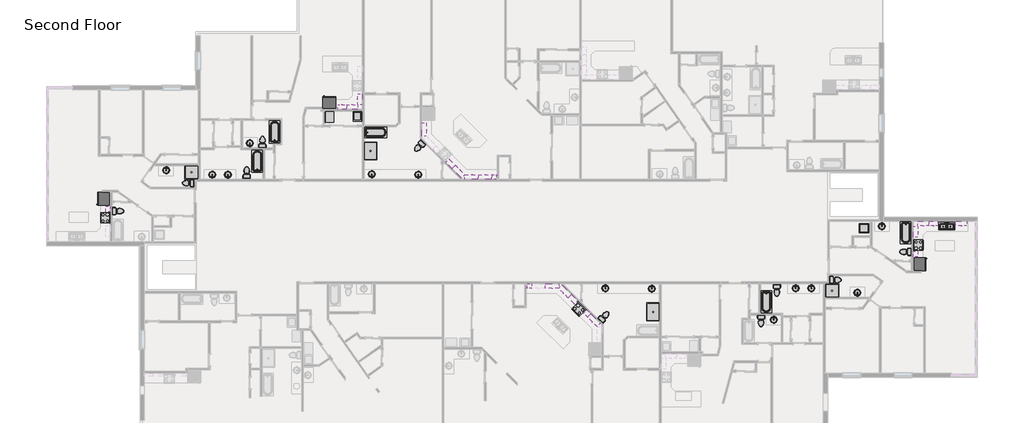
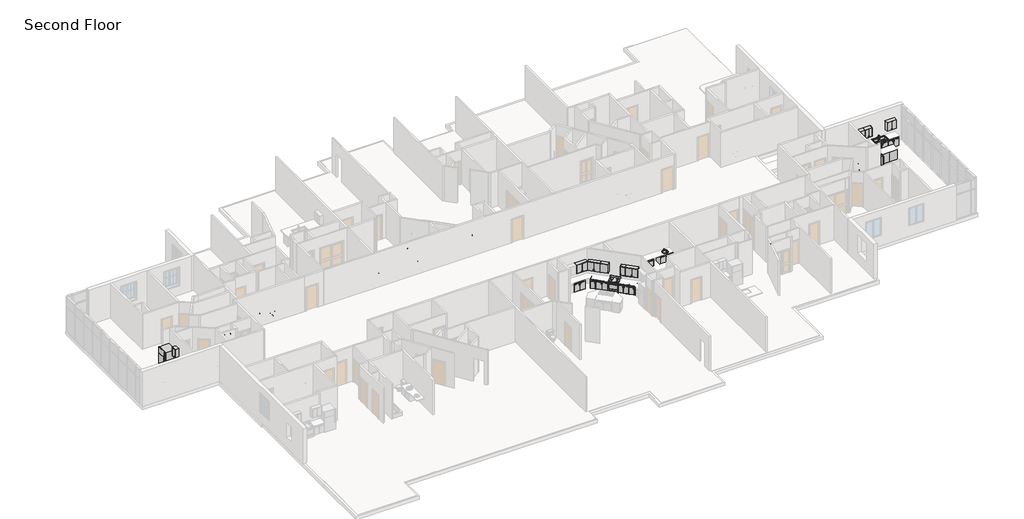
# One storey, part 15 of 17: 66 furniture elements, 33 flow terminals, 9 proxies.
"""IFC4 building model written with IfcOpenShell, lengths in millimetres."""

from ifc_helpers import new_model, si_unit, origin, place, context, project, spatial, transform, mapped, element, save
from components import proxy_6b4a07a9, proxy_fbb4c072, proxy_9109806d, proxy_718fa39f, proxy_f3e01b1d, flow_terminal_54cced83, flow_terminal_5dba0d75, flow_terminal_a53be723, flow_terminal_d49f872f, toilet_domestic_3d_toilet_domestic_3d_f7549cf7, toilet_domestic_3d_toilet_domestic_3d_183bbd19, toilet_domestic_3d_toilet_domestic_3d_a08e12bc, toilet_domestic_3d_toilet_domestic_3d_5530cc89, tub_rectangular_3d_tub_rectangular_3d_72a4d900, tub_rectangular_3d_tub_rectangular_3d_cbc2c449, furniture_0fc2bd2a, furniture_6e8794dd, furniture_07bc9410, furniture_94ff1b7c, furniture_6a014568, furniture_338da5bd, furniture_7de88fd5, furniture_695a55eb, furniture_b6fbc004, furniture_bfd559e3, base_cabinet_filler_base_cabinet_filler_2f0b3f4e, base_cabinet_filler_base_cabinet_filler_5f1ac9d6, base_cabinet_filler_base_cabinet_filler_83579e99, furniture_de2c603d, furniture_b1f16c95, furniture_c6a3367d, upper_cabinet_filler_wall_upper_cabinet_filler_wall_ebdf5134, furniture_d9efccb3, furniture_13c6450d, furniture_a47b5ef4, furniture_b880e30f, furniture_9117db5d, furniture_b34976c1, furniture_fa9c5d5b

model = new_model("IFC4")

# Units and contexts
model_context = context("Model", 3, world=origin())
ifc_project = project(units=[si_unit("LENGTHUNIT", "METRE", prefix="MILLI")], contexts=[model_context])

# Site, building, storey
site = spatial("IfcSite", under=ifc_project)
building = spatial("IfcBuilding", under=site)
storey = spatial("IfcBuildingStorey", under=building, Name="Second Floor", Elevation=3048.0)

# Proxies
placement = place(None, origin())
proxy_shape = proxy_6b4a07a9(model_context)
element("IfcBuildingElementProxy", 1, Name="Dryer : 30\" x 25\" x 35\"", ObjectType="Dryer : 30\" x 25\" x 35\"", at=placement, inside=storey, context=model_context, shape_type="MappedRepresentation", body=[
    mapped(proxy_shape, transform((20016.6056012, 6188.6428501, 3048.0), x_axis=(0.0, 1.0, 0.0), y_axis=(-1.0, 0.0, 0.0), z_axis=(0.0, 0.0, 1.0))),
])
proxy_2_shape = proxy_fbb4c072(model_context)
element("IfcBuildingElementProxy", 2, Name="Range : 30\" x 26\"", ObjectType="Range : 30\" x 26\"", at=placement, inside=storey, context=model_context, shape_type="MappedRepresentation", body=[
    mapped(proxy_2_shape, transform((4220.3003923, 131.5202225, 3048.0), x_axis=(0.0, -1.0, 0.0), y_axis=(1.0, 0.0, 0.0), z_axis=(0.0, 0.0, 1.0))),
])
element("IfcBuildingElementProxy", 3, Name="Range : 30\" x 26\"", ObjectType="Range : 30\" x 26\"", at=placement, inside=storey, context=model_context, shape_type="MappedRepresentation", body=[
    mapped(proxy_2_shape, transform((36146.5032482, -6394.5854043, 3048.0), x_axis=(0.7071067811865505, -0.7071067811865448, 0.0), y_axis=(0.7071067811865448, 0.7071067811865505, 0.0), z_axis=(0.0, 0.0, 1.0))),
])
element("IfcBuildingElementProxy", 4, Name="Range : 30\" x 26\"", ObjectType="Range : 30\" x 26\"", at=placement, inside=storey, context=model_context, shape_type="MappedRepresentation", body=[
    mapped(proxy_2_shape, transform((59969.853994, -2480.7028474, 3048.0), x_axis=(0.0, 1.0, 0.0), y_axis=(-1.0, 0.0, 0.0), z_axis=(0.0, 0.0, 1.0))),
])
proxy_3_shape = proxy_9109806d(model_context)
element("IfcBuildingElementProxy", 5, Name="Refrigerator : 35\" x 32\" RH", ObjectType="Refrigerator : 35\" x 32\" RH", at=placement, inside=storey, context=model_context, shape_type="MappedRepresentation", body=[
    mapped(proxy_3_shape, transform((4425.725539, 1036.2685137, 3048.0), x_axis=(0.0, -1.0, 0.0), y_axis=(1.0, 0.0, 0.0), z_axis=(0.0, 0.0, 1.0))),
])
element("IfcBuildingElementProxy", 6, Name="Refrigerator : 35\" x 32\" RH", ObjectType="Refrigerator : 35\" x 32\" RH", at=placement, inside=storey, context=model_context, shape_type="MappedRepresentation", body=[
    mapped(proxy_3_shape, transform((19720.4542781, 7559.8584529, 3048.0), x_axis=(-1.0, 0.0, 0.0), y_axis=(0.0, -1.0, 0.0), z_axis=(0.0, 0.0, 1.0))),
])
element("IfcBuildingElementProxy", 7, Name="Refrigerator : 35\" x 32\" RH", ObjectType="Refrigerator : 35\" x 32\" RH", at=placement, inside=storey, context=model_context, shape_type="MappedRepresentation", body=[
    mapped(proxy_3_shape, transform((59764.4288473, -3385.4511385, 3048.0), x_axis=(0.0, 1.0, 0.0), y_axis=(-1.0, 0.0, 0.0), z_axis=(0.0, 0.0, 1.0))),
])
proxy_4_shape = proxy_718fa39f(model_context)
element("IfcBuildingElementProxy", 8, Name="Washer : 27\" x 25\" x 35\"", ObjectType="Washer : 27\" x 25\" x 35\"", at=placement, inside=storey, context=model_context, shape_type="MappedRepresentation", body=[
    mapped(proxy_4_shape, transform((21369.2577923, 7066.4225435, 3048.0), x_axis=(0.0, -1.0, 0.0), y_axis=(1.0, 0.0, 0.0), z_axis=(0.0, 0.0, 1.0))),
])
proxy_5_shape = proxy_f3e01b1d(model_context)
element("IfcBuildingElementProxy", 9, Name="Washer_Dryer_Combo : 24\"", ObjectType="Washer_Dryer_Combo : 24\"", at=placement, inside=storey, context=model_context, shape_type="MappedRepresentation", body=[
    mapped(proxy_5_shape, transform((56408.3907443, -949.2863988, 3048.0), x_axis=(0.0, -1.0, 0.0), y_axis=(1.0, 0.0, 0.0), z_axis=(0.0, 0.0, 1.0))),
])

# Flow terminals
flow_terminal_shape = flow_terminal_54cced83(model_context)
element("IfcFlowTerminal", 10, ObjectType="Shower Base-3D : 36\" x 36\"", at=placement, inside=storey, context=model_context, shape_type="MappedRepresentation", body=[
    mapped(flow_terminal_shape, transform((10380.0467971, 2838.6124849, 3048.0), x_axis=(0.0, 1.0, 0.0), y_axis=(-1.0, 0.0, 0.0), z_axis=(0.0, 0.0, 1.0))),
])
element("IfcFlowTerminal", 11, ObjectType="Shower Base-3D : 36\" x 36\"", at=placement, inside=storey, context=model_context, shape_type="MappedRepresentation", body=[
    mapped(flow_terminal_shape, transform((53810.1075892, -5187.7951097, 3048.0), x_axis=(0.0, -1.0, 0.0), y_axis=(1.0, 0.0, 0.0), z_axis=(0.0, 0.0, 1.0))),
])
flow_terminal_2_shape = flow_terminal_5dba0d75(model_context)
element("IfcFlowTerminal", 12, ObjectType="Shower Base-3D : 48\" x 34\"", at=placement, inside=storey, context=model_context, shape_type="MappedRepresentation", body=[
    mapped(flow_terminal_2_shape, transform((22513.3830518, 4283.4091714, 3048.0), x_axis=(0.0, -1.0, 0.0), y_axis=(1.0, 0.0, 0.0), z_axis=(0.0, 0.0, 1.0))),
])
element("IfcFlowTerminal", 13, ObjectType="Shower Base-3D : 48\" x 34\"", at=placement, inside=storey, context=model_context, shape_type="MappedRepresentation", body=[
    mapped(flow_terminal_2_shape, transform((41676.7713345, -6632.5917963, 3048.0), x_axis=(0.0, 1.0, 0.0), y_axis=(-1.0, 0.0, 0.0), z_axis=(0.0, 0.0, 1.0))),
])
flow_terminal_3_shape = flow_terminal_a53be723(model_context)
element("IfcFlowTerminal", 14, ObjectType="Sink Kitchen-Double : 42\" x 21\"", at=placement, inside=storey, context=model_context, shape_type="MappedRepresentation", body=[
    mapped(flow_terminal_3_shape, transform((61579.7647534, -809.7591569, 3048.0), x_axis=(1.0, 0.0, 0.0), y_axis=(0.0, 1.0, 0.0), z_axis=(0.0, 0.0, 1.0))),
])
flow_terminal_4_shape = flow_terminal_d49f872f(model_context)
element("IfcFlowTerminal", 15, ObjectType="Sink Vanity-Round : 19\" x 19\"", at=placement, inside=storey, context=model_context, shape_type="MappedRepresentation", body=[
    mapped(flow_terminal_4_shape, transform((14429.6552962, 4892.9733129, 3048.0), x_axis=(-1.0, 0.0, 0.0), y_axis=(0.0, -1.0, 0.0), z_axis=(0.0, 0.0, 1.0))),
])
element("IfcFlowTerminal", 16, ObjectType="Sink Vanity-Round : 19\" x 19\"", at=placement, inside=storey, context=model_context, shape_type="MappedRepresentation", body=[
    mapped(flow_terminal_4_shape, transform((8560.7111773, 2889.4483435, 3048.0), x_axis=(1.0, 0.0, 0.0), y_axis=(0.0, 1.0, 0.0), z_axis=(0.0, 0.0, 1.0))),
])
element("IfcFlowTerminal", 17, ObjectType="Sink Vanity-Round : 19\" x 19\"", at=placement, inside=storey, context=model_context, shape_type="MappedRepresentation", body=[
    mapped(flow_terminal_4_shape, transform((12946.89091, 2757.2346539, 3048.0), x_axis=(-1.0, 0.0, 0.0), y_axis=(0.0, -1.0, 0.0), z_axis=(0.0, 0.0, 1.0))),
])
element("IfcFlowTerminal", 18, ObjectType="Sink Vanity-Round : 19\" x 19\"", at=placement, inside=storey, context=model_context, shape_type="MappedRepresentation", body=[
    mapped(flow_terminal_4_shape, transform((11880.09091, 2769.0116592, 3048.0), x_axis=(-1.0, 0.0, 0.0), y_axis=(0.0, -1.0, 0.0), z_axis=(0.0, 0.0, 1.0))),
])
element("IfcFlowTerminal", 19, ObjectType="Sink Vanity-Round : 19\" x 19\"", at=placement, inside=storey, context=model_context, shape_type="MappedRepresentation", body=[
    mapped(flow_terminal_4_shape, transform((25848.431225, 2766.506956, 3048.0), x_axis=(-0.9999992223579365, 0.0012471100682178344, 0.0), y_axis=(-0.0012471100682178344, -0.9999992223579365, 0.0), z_axis=(0.0, 0.0, 1.0))),
])
element("IfcFlowTerminal", 20, ObjectType="Sink Vanity-Round : 19\" x 19\"", at=placement, inside=storey, context=model_context, shape_type="MappedRepresentation", body=[
    mapped(flow_terminal_4_shape, transform((22697.558797, 2783.0261745, 3048.0), x_axis=(-0.9999968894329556, 0.002494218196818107, 0.0), y_axis=(-0.002494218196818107, -0.9999968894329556, 0.0), z_axis=(0.0, 0.0, 1.0))),
])
element("IfcFlowTerminal", 21, ObjectType="Sink Vanity-Round : 19\" x 19\"", at=placement, inside=storey, context=model_context, shape_type="MappedRepresentation", body=[
    mapped(flow_terminal_4_shape, transform((49760.4990901, -7242.1559377, 3048.0), x_axis=(1.0, 0.0, 0.0), y_axis=(0.0, 1.0, 0.0), z_axis=(0.0, 0.0, 1.0))),
])
element("IfcFlowTerminal", 22, ObjectType="Sink Vanity-Round : 19\" x 19\"", at=placement, inside=storey, context=model_context, shape_type="MappedRepresentation", body=[
    mapped(flow_terminal_4_shape, transform((57094.1764749, -902.6278973, 3048.0), x_axis=(1.0, 0.0, 0.0), y_axis=(0.0, 1.0, 0.0), z_axis=(0.0, 0.0, 1.0))),
])
element("IfcFlowTerminal", 23, ObjectType="Sink Vanity-Round : 19\" x 19\"", at=placement, inside=storey, context=model_context, shape_type="MappedRepresentation", body=[
    mapped(flow_terminal_4_shape, transform((55629.443209, -5238.6309683, 3048.0), x_axis=(-1.0, 0.0, 0.0), y_axis=(0.0, -1.0, 0.0), z_axis=(0.0, 0.0, 1.0))),
])
element("IfcFlowTerminal", 24, ObjectType="Sink Vanity-Round : 19\" x 19\"", at=placement, inside=storey, context=model_context, shape_type="MappedRepresentation", body=[
    mapped(flow_terminal_4_shape, transform((51243.2634763, -5106.4172787, 3048.0), x_axis=(1.0, 0.0, 0.0), y_axis=(0.0, 1.0, 0.0), z_axis=(0.0, 0.0, 1.0))),
])
element("IfcFlowTerminal", 25, ObjectType="Sink Vanity-Round : 19\" x 19\"", at=placement, inside=storey, context=model_context, shape_type="MappedRepresentation", body=[
    mapped(flow_terminal_4_shape, transform((52310.0634763, -5118.194284, 3048.0), x_axis=(1.0, 0.0, 0.0), y_axis=(0.0, 1.0, 0.0), z_axis=(0.0, 0.0, 1.0))),
])
element("IfcFlowTerminal", 26, ObjectType="Sink Vanity-Round : 19\" x 19\"", at=placement, inside=storey, context=model_context, shape_type="MappedRepresentation", body=[
    mapped(flow_terminal_4_shape, transform((38341.7231613, -5115.6895809, 3048.0), x_axis=(0.9999992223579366, -0.0012471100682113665, 0.0), y_axis=(0.0012471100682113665, 0.9999992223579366, 0.0), z_axis=(0.0, 0.0, 1.0))),
])
element("IfcFlowTerminal", 27, ObjectType="Sink Vanity-Round : 19\" x 19\"", at=placement, inside=storey, context=model_context, shape_type="MappedRepresentation", body=[
    mapped(flow_terminal_4_shape, transform((41492.5955893, -5132.2087994, 3048.0), x_axis=(0.9999968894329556, -0.0024942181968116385, 0.0), y_axis=(0.0024942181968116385, 0.9999968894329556, 0.0), z_axis=(0.0, 0.0, 1.0))),
])
toilet_domestic_3d_toilet_domestic_3d_shape = toilet_domestic_3d_toilet_domestic_3d_f7549cf7(model_context)
toilet_domestic_3d_toilet_domestic_3d_2_shape = toilet_domestic_3d_toilet_domestic_3d_183bbd19(model_context)
element("IfcFlowTerminal", 28, ObjectType="Toilet-Domestic-3D : Toilet-Domestic-3D", at=placement, inside=storey, context=model_context, shape_type="MappedRepresentation", body=[
    mapped(toilet_domestic_3d_toilet_domestic_3d_shape, transform((14122.4, 2916.9069921, 3048.0), x_axis=(-1.0, 0.0, 0.0), y_axis=(0.0, -1.0, 0.0), z_axis=(0.0, 0.0, 1.0))),
    mapped(toilet_domestic_3d_toilet_domestic_3d_2_shape, transform((14122.4, 2916.9069921, 3048.0), x_axis=(-1.0, 0.0, 0.0), y_axis=(0.0, -1.0, 0.0), z_axis=(0.0, 0.0, 1.0))),
])
element("IfcFlowTerminal", 29, ObjectType="Toilet-Domestic-3D : Toilet-Domestic-3D", at=placement, inside=storey, context=model_context, shape_type="MappedRepresentation", body=[
    mapped(toilet_domestic_3d_toilet_domestic_3d_shape, transform((15189.2, 4981.3051988, 3048.0), x_axis=(-1.0, 0.0, 0.0), y_axis=(0.0, -1.0, 0.0), z_axis=(0.0, 0.0, 1.0))),
    mapped(toilet_domestic_3d_toilet_domestic_3d_2_shape, transform((15189.2, 4981.3051988, 3048.0), x_axis=(-1.0, 0.0, 0.0), y_axis=(0.0, -1.0, 0.0), z_axis=(0.0, 0.0, 1.0))),
])
element("IfcFlowTerminal", 30, ObjectType="Toilet-Domestic-3D : Toilet-Domestic-3D", at=placement, inside=storey, context=model_context, shape_type="MappedRepresentation", body=[
    mapped(toilet_domestic_3d_toilet_domestic_3d_shape, transform((5489.6964197, 205.0443161, 3048.0), x_axis=(0.0, 1.0, 0.0), y_axis=(-1.0, 0.0, 0.0), z_axis=(0.0, 0.0, 1.0))),
    mapped(toilet_domestic_3d_toilet_domestic_3d_2_shape, transform((5489.6964197, 205.0443161, 3048.0), x_axis=(0.0, 1.0, 0.0), y_axis=(-1.0, 0.0, 0.0), z_axis=(0.0, 0.0, 1.0))),
])
element("IfcFlowTerminal", 31, ObjectType="Toilet-Domestic-3D : Toilet-Domestic-3D", at=placement, inside=storey, context=model_context, shape_type="MappedRepresentation", body=[
    mapped(toilet_domestic_3d_toilet_domestic_3d_shape, transform((50067.7543863, -5266.0896169, 3048.0), x_axis=(1.0, 0.0, 0.0), y_axis=(0.0, 1.0, 0.0), z_axis=(0.0, 0.0, 1.0))),
    mapped(toilet_domestic_3d_toilet_domestic_3d_2_shape, transform((50067.7543863, -5266.0896169, 3048.0), x_axis=(1.0, 0.0, 0.0), y_axis=(0.0, 1.0, 0.0), z_axis=(0.0, 0.0, 1.0))),
])
element("IfcFlowTerminal", 32, ObjectType="Toilet-Domestic-3D : Toilet-Domestic-3D", at=placement, inside=storey, context=model_context, shape_type="MappedRepresentation", body=[
    mapped(toilet_domestic_3d_toilet_domestic_3d_shape, transform((49000.9543863, -7330.4878236, 3048.0), x_axis=(1.0, 0.0, 0.0), y_axis=(0.0, 1.0, 0.0), z_axis=(0.0, 0.0, 1.0))),
    mapped(toilet_domestic_3d_toilet_domestic_3d_2_shape, transform((49000.9543863, -7330.4878236, 3048.0), x_axis=(1.0, 0.0, 0.0), y_axis=(0.0, 1.0, 0.0), z_axis=(0.0, 0.0, 1.0))),
])
element("IfcFlowTerminal", 33, ObjectType="Toilet-Domestic-3D : Toilet-Domestic-3D", at=placement, inside=storey, context=model_context, shape_type="MappedRepresentation", body=[
    mapped(toilet_domestic_3d_toilet_domestic_3d_shape, transform((58700.4579666, -2554.2269409, 3048.0), x_axis=(0.0, -1.0, 0.0), y_axis=(1.0, 0.0, 0.0), z_axis=(0.0, 0.0, 1.0))),
    mapped(toilet_domestic_3d_toilet_domestic_3d_2_shape, transform((58700.4579666, -2554.2269409, 3048.0), x_axis=(0.0, -1.0, 0.0), y_axis=(1.0, 0.0, 0.0), z_axis=(0.0, 0.0, 1.0))),
])
toilet_domestic_3d_toilet_domestic_3d_3_shape = toilet_domestic_3d_toilet_domestic_3d_a08e12bc(model_context)
toilet_domestic_3d_toilet_domestic_3d_4_shape = toilet_domestic_3d_toilet_domestic_3d_5530cc89(model_context)
element("IfcFlowTerminal", 34, ObjectType="Toilet-Domestic-3D : Toilet-Domestic-3D", at=placement, inside=storey, context=model_context, shape_type="MappedRepresentation", body=[
    mapped(toilet_domestic_3d_toilet_domestic_3d_3_shape, transform((25747.809259, 4514.7153485, 3048.0), x_axis=(-0.7196179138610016, 0.6943702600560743, 0.0), y_axis=(-0.6943702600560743, -0.7196179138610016, 0.0), z_axis=(0.0, 0.0, 1.0))),
    mapped(toilet_domestic_3d_toilet_domestic_3d_4_shape, transform((25747.809259, 4514.7153485, 3048.0), x_axis=(-0.7196179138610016, 0.6943702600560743, 0.0), y_axis=(-0.6943702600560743, -0.7196179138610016, 0.0), z_axis=(0.0, 0.0, 1.0))),
])
element("IfcFlowTerminal", 35, ObjectType="Toilet-Domestic-3D : Toilet-Domestic-3D", at=placement, inside=storey, context=model_context, shape_type="MappedRepresentation", body=[
    mapped(toilet_domestic_3d_toilet_domestic_3d_3_shape, transform((10058.4, 2108.2, 3048.0), x_axis=(-0.0047058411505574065, 0.9999889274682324, 0.0), y_axis=(-0.9999889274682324, -0.0047058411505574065, 0.0), z_axis=(0.0, 0.0, 1.0))),
    mapped(toilet_domestic_3d_toilet_domestic_3d_4_shape, transform((10058.4, 2108.2, 3048.0), x_axis=(-0.0047058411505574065, 0.9999889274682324, 0.0), y_axis=(-0.9999889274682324, -0.0047058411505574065, 0.0), z_axis=(0.0, 0.0, 1.0))),
])
element("IfcFlowTerminal", 36, ObjectType="Toilet-Domestic-3D : Toilet-Domestic-3D", at=placement, inside=storey, context=model_context, shape_type="MappedRepresentation", body=[
    mapped(toilet_domestic_3d_toilet_domestic_3d_3_shape, transform((38442.3451273, -6863.8979733, 3048.0), x_axis=(0.719617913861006, -0.6943702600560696, 0.0), y_axis=(0.6943702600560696, 0.719617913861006, 0.0), z_axis=(0.0, 0.0, 1.0))),
    mapped(toilet_domestic_3d_toilet_domestic_3d_4_shape, transform((38442.3451273, -6863.8979733, 3048.0), x_axis=(0.719617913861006, -0.6943702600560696, 0.0), y_axis=(0.6943702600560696, 0.719617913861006, 0.0), z_axis=(0.0, 0.0, 1.0))),
])
element("IfcFlowTerminal", 37, ObjectType="Toilet-Domestic-3D : Toilet-Domestic-3D", at=placement, inside=storey, context=model_context, shape_type="MappedRepresentation", body=[
    mapped(toilet_domestic_3d_toilet_domestic_3d_3_shape, transform((54131.7543863, -4457.3826248, 3048.0), x_axis=(0.004705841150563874, -0.9999889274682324, 0.0), y_axis=(0.9999889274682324, 0.004705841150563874, 0.0), z_axis=(0.0, 0.0, 1.0))),
    mapped(toilet_domestic_3d_toilet_domestic_3d_4_shape, transform((54131.7543863, -4457.3826248, 3048.0), x_axis=(0.004705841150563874, -0.9999889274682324, 0.0), y_axis=(0.9999889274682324, 0.004705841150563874, 0.0), z_axis=(0.0, 0.0, 1.0))),
])
tub_rectangular_3d_tub_rectangular_3d_shape = tub_rectangular_3d_tub_rectangular_3d_72a4d900(model_context)
element("IfcFlowTerminal", 38, ObjectType="Tub-Rectangular-3D : Tub-Rectangular-3D", at=placement, inside=storey, context=model_context, shape_type="MappedRepresentation", body=[
    mapped(tub_rectangular_3d_tub_rectangular_3d_shape, transform((15278.2993195, 3946.2121401, 3048.0), x_axis=(0.0, 1.0, 0.0), y_axis=(-1.0, 0.0, 0.0), z_axis=(0.0, 0.0, 1.0))),
])
element("IfcFlowTerminal", 39, ObjectType="Tub-Rectangular-3D : Tub-Rectangular-3D", at=placement, inside=storey, context=model_context, shape_type="MappedRepresentation", body=[
    mapped(tub_rectangular_3d_tub_rectangular_3d_shape, transform((16456.2083594, 5935.4931457, 3048.0), x_axis=(0.0, 1.0, 0.0), y_axis=(-1.0, 0.0, 0.0), z_axis=(0.0, 0.0, 1.0))),
])
element("IfcFlowTerminal", 40, ObjectType="Tub-Rectangular-3D : Tub-Rectangular-3D", at=placement, inside=storey, context=model_context, shape_type="MappedRepresentation", body=[
    mapped(tub_rectangular_3d_tub_rectangular_3d_shape, transform((48911.8550668, -6295.394765, 3048.0), x_axis=(0.0, -1.0, 0.0), y_axis=(1.0, 0.0, 0.0), z_axis=(0.0, 0.0, 1.0))),
])
tub_rectangular_3d_tub_rectangular_3d_2_shape = tub_rectangular_3d_tub_rectangular_3d_cbc2c449(model_context)
element("IfcFlowTerminal", 41, ObjectType="Tub-Rectangular-3D : Tub-Rectangular-3D", at=placement, inside=storey, context=model_context, shape_type="MappedRepresentation", body=[
    mapped(tub_rectangular_3d_tub_rectangular_3d_2_shape, transform((23209.8603258, 5986.0380642, 3048.0), x_axis=(1.0, 0.0, 0.0), y_axis=(0.0, 1.0, 0.0), z_axis=(0.0, 0.0, 1.0))),
])
element("IfcFlowTerminal", 42, ObjectType="Tub-Rectangular-3D : Tub-Rectangular-3D", at=placement, inside=storey, context=model_context, shape_type="MappedRepresentation", body=[
    mapped(tub_rectangular_3d_tub_rectangular_3d_2_shape, transform((59252.303994, -1606.8667245, 3048.0), x_axis=(0.0, -1.0, 0.0), y_axis=(1.0, 0.0, 0.0), z_axis=(0.0, 0.0, 1.0))),
])

# Furniture
furniture_shape = furniture_0fc2bd2a(model_context)
element("IfcFurniture", 43, ObjectType="Base Cabinet-Single Door & Drawer : 15\"'", at=placement, inside=storey, context=model_context, shape_type="MappedRepresentation", body=[
    mapped(furniture_shape, transform((28365.0552156, 2777.7431755, 3048.0), x_axis=(-0.7071067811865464, 0.7071067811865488, 0.0), y_axis=(-0.7071067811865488, -0.7071067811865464, 0.0), z_axis=(0.0, 0.0, 1.0))),
])
element("IfcFurniture", 44, ObjectType="Base Cabinet-Single Door & Drawer : 15\"'", at=placement, inside=storey, context=model_context, shape_type="MappedRepresentation", body=[
    mapped(furniture_shape, transform((35825.0991707, -5126.9258003, 3048.0), x_axis=(0.7071067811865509, -0.7071067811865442, 0.0), y_axis=(0.7071067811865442, 0.7071067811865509, 0.0), z_axis=(0.0, 0.0, 1.0))),
])
element("IfcFurniture", 45, ObjectType="Base Cabinet-Single Door & Drawer : 15\"'", at=placement, inside=storey, context=model_context, shape_type="MappedRepresentation", body=[
    mapped(furniture_shape, transform((37810.9193279, -7127.7174378, 3048.0), x_axis=(0.7056789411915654, -0.7085317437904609, 0.0), y_axis=(0.7085317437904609, 0.7056789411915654, 0.0), z_axis=(0.0, 0.0, 1.0))),
])
furniture_2_shape = furniture_6e8794dd(model_context)
element("IfcFurniture", 46, ObjectType="Base Cabinet-Single Door & Drawer : 12\"", at=placement, inside=storey, context=model_context, shape_type="MappedRepresentation", body=[
    mapped(furniture_2_shape, transform((59309.453994, -1583.9741037, 3048.0), x_axis=(0.0, 1.0, 0.0), y_axis=(-1.0, 0.0, 0.0), z_axis=(0.0, 0.0, 1.0))),
])
furniture_3_shape = furniture_07bc9410(model_context)
element("IfcFurniture", 47, ObjectType="Base Cabinet-Single Door & Drawer : 18\"", at=placement, inside=storey, context=model_context, shape_type="MappedRepresentation", body=[
    mapped(furniture_3_shape, transform((4880.7003923, 341.3825176, 3048.0), x_axis=(0.0, 1.0, 0.0), y_axis=(-1.0, 0.0, 0.0), z_axis=(0.0, 0.0, 1.0))),
])
element("IfcFurniture", 48, ObjectType="Base Cabinet-Single Door & Drawer : 18\"", at=placement, inside=storey, context=model_context, shape_type="MappedRepresentation", body=[
    mapped(furniture_3_shape, transform((59309.453994, -2690.5651424, 3048.0), x_axis=(0.0, -1.0, 0.0), y_axis=(1.0, 0.0, 0.0), z_axis=(0.0, 0.0, 1.0))),
])
furniture_4_shape = furniture_94ff1b7c(model_context)
element("IfcFurniture", 49, ObjectType="Base Cabinet-Single Door & Drawer : 24\"", at=placement, inside=storey, context=model_context, shape_type="MappedRepresentation", body=[
    mapped(furniture_4_shape, transform((3057.9741763, 98.2194727, 3048.0), x_axis=(-1.0, 0.0, 0.0), y_axis=(0.0, -1.0, 0.0), z_axis=(0.0, 0.0, 1.0))),
])
element("IfcFurniture", 50, ObjectType="Base Cabinet-Single Door & Drawer : 24\"", at=placement, inside=storey, context=model_context, shape_type="MappedRepresentation", body=[
    mapped(furniture_4_shape, transform((61132.18021, -2447.4020975, 3048.0), x_axis=(1.0, 0.0, 0.0), y_axis=(0.0, 1.0, 0.0), z_axis=(0.0, 0.0, 1.0))),
])
furniture_5_shape = furniture_6a014568(model_context)
element("IfcFurniture", 51, ObjectType="Base Cabinet-Single Door & Drawer : 24\"", at=placement, inside=storey, context=model_context, shape_type="MappedRepresentation", body=[
    mapped(furniture_5_shape, transform((2410.8987665, 98.2194727, 3048.0), x_axis=(1.0, 0.0, 0.0), y_axis=(0.0, 1.0, 0.0), z_axis=(0.0, 0.0, 1.0))),
])
element("IfcFurniture", 52, ObjectType="Base Cabinet-Single Door & Drawer : 24\"", at=placement, inside=storey, context=model_context, shape_type="MappedRepresentation", body=[
    mapped(furniture_5_shape, transform((61779.2556198, -2447.4020975, 3048.0), x_axis=(-1.0, 0.0, 0.0), y_axis=(0.0, -1.0, 0.0), z_axis=(0.0, 0.0, 1.0))),
])
furniture_6_shape = furniture_338da5bd(model_context)
element("IfcFurniture", 53, ObjectType="Base Cabinet-Double Door & 2 Drawer : 30\"", at=placement, inside=storey, context=model_context, shape_type="MappedRepresentation", body=[
    mapped(furniture_6_shape, transform((26782.2215797, 4373.9191641, 3048.0), x_axis=(-0.7056789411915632, 0.7085317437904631, 0.0), y_axis=(-0.7085317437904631, -0.7056789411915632, 0.0), z_axis=(0.0, 0.0, 1.0))),
])
element("IfcFurniture", 54, ObjectType="Base Cabinet-Double Door & 2 Drawer : 30\"", at=placement, inside=storey, context=model_context, shape_type="MappedRepresentation", body=[
    mapped(furniture_6_shape, transform((37407.9328066, -6723.1017889, 3048.0), x_axis=(0.7056789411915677, -0.7085317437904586, 0.0), y_axis=(0.7085317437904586, 0.7056789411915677, 0.0), z_axis=(0.0, 0.0, 1.0))),
])
furniture_7_shape = furniture_7de88fd5(model_context)
element("IfcFurniture", 55, ObjectType="Base Cabinet-Double Door & 2 Drawer : 33\"", at=placement, inside=storey, context=model_context, shape_type="MappedRepresentation", body=[
    mapped(furniture_7_shape, transform((20651.145062, 7103.205075, 3048.0), x_axis=(-1.0, 0.0, 0.0), y_axis=(0.0, -1.0, 0.0), z_axis=(0.0, 0.0, 1.0))),
])
furniture_8_shape = furniture_695a55eb(model_context)
element("IfcFurniture", 56, ObjectType="Base Cabinet-Double Door & 2 Drawer : 36\"", at=placement, inside=storey, context=model_context, shape_type="MappedRepresentation", body=[
    mapped(furniture_8_shape, transform((62528.5916989, -502.6137558, 3048.0), x_axis=(-1.0, 0.0, 0.0), y_axis=(0.0, -1.0, 0.0), z_axis=(0.0, 0.0, 1.0))),
])
element("IfcFurniture", 57, ObjectType="Base Cabinet-Double Door & 2 Drawer : 36\"", at=placement, inside=storey, context=model_context, shape_type="MappedRepresentation", body=[
    mapped(furniture_8_shape, transform((61614.1916989, -502.6137558, 3048.0), x_axis=(-1.0, 0.0, 0.0), y_axis=(0.0, -1.0, 0.0), z_axis=(0.0, 0.0, 1.0))),
])
element("IfcFurniture", 58, ObjectType="Base Cabinet-Double Door & 2 Drawer : 36\"", at=placement, inside=storey, context=model_context, shape_type="MappedRepresentation", body=[
    mapped(furniture_8_shape, transform((60699.7916989, -502.6137558, 3048.0), x_axis=(-1.0, 0.0, 0.0), y_axis=(0.0, -1.0, 0.0), z_axis=(0.0, 0.0, 1.0))),
])
furniture_9_shape = furniture_b6fbc004(model_context)
element("IfcFurniture", 59, ObjectType="Base Cabinet-Double Door & 2 Drawer : 36\"", at=placement, inside=storey, context=model_context, shape_type="MappedRepresentation", body=[
    mapped(furniture_9_shape, transform((30655.8953946, 2359.3591714, 3048.0), x_axis=(-1.0, 0.0, 0.0), y_axis=(0.0, -1.0, 0.0), z_axis=(0.0, 0.0, 1.0))),
])
element("IfcFurniture", 60, ObjectType="Base Cabinet-Double Door & 2 Drawer : 36\"", at=placement, inside=storey, context=model_context, shape_type="MappedRepresentation", body=[
    mapped(furniture_9_shape, transform((29741.4953946, 2359.3591714, 3048.0), x_axis=(-1.0, 0.0, 0.0), y_axis=(0.0, -1.0, 0.0), z_axis=(0.0, 0.0, 1.0))),
])
element("IfcFurniture", 61, ObjectType="Base Cabinet-Double Door & 2 Drawer : 36\"", at=placement, inside=storey, context=model_context, shape_type="MappedRepresentation", body=[
    mapped(furniture_9_shape, transform((27907.0621534, 3235.7362377, 3048.0), x_axis=(-0.7071067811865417, 0.7071067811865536, 0.0), y_axis=(-0.7071067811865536, -0.7071067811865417, 0.0), z_axis=(0.0, 0.0, 1.0))),
])
element("IfcFurniture", 62, ObjectType="Base Cabinet-Double Door & 2 Drawer : 36\"", at=placement, inside=storey, context=model_context, shape_type="MappedRepresentation", body=[
    mapped(furniture_9_shape, transform((25998.6143708, 5897.3510915, 3048.0), x_axis=(0.0, 1.0, 0.0), y_axis=(-1.0, 0.0, 0.0), z_axis=(0.0, 0.0, 1.0))),
])
element("IfcFurniture", 63, ObjectType="Base Cabinet-Double Door & 2 Drawer : 36\"", at=placement, inside=storey, context=model_context, shape_type="MappedRepresentation", body=[
    mapped(furniture_9_shape, transform((34448.6589917, -4708.5417963, 3048.0), x_axis=(1.0, 0.0, 0.0), y_axis=(0.0, 1.0, 0.0), z_axis=(0.0, 0.0, 1.0))),
])
element("IfcFurniture", 64, ObjectType="Base Cabinet-Double Door & 2 Drawer : 36\"", at=placement, inside=storey, context=model_context, shape_type="MappedRepresentation", body=[
    mapped(furniture_9_shape, transform((36283.0922328, -5584.9188625, 3048.0), x_axis=(0.7071067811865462, -0.707106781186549, 0.0), y_axis=(0.707106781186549, 0.7071067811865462, 0.0), z_axis=(0.0, 0.0, 1.0))),
])
furniture_10_shape = furniture_bfd559e3(model_context)
element("IfcFurniture", 65, ObjectType="Base Cabinet-Corner Unit-Angled : 36\"", at=placement, inside=storey, context=model_context, shape_type="MappedRepresentation", body=[
    mapped(furniture_10_shape, transform((21965.9073571, 7629.9427799, 3048.0), x_axis=(0.0, -1.0, 0.0), y_axis=(1.0, 0.0, 0.0), z_axis=(0.0, 0.0, 1.0))),
])
element("IfcFurniture", 66, ObjectType="Base Cabinet-Corner Unit-Angled : 36\"", at=placement, inside=storey, context=model_context, shape_type="MappedRepresentation", body=[
    mapped(furniture_10_shape, transform((59309.453994, -1029.3514607, 3048.0), x_axis=(0.0, 1.0, 0.0), y_axis=(-1.0, 0.0, 0.0), z_axis=(0.0, 0.0, 1.0))),
])
base_cabinet_filler_base_cabinet_filler_shape = base_cabinet_filler_base_cabinet_filler_2f0b3f4e(model_context)
element("IfcFurniture", 67, ObjectType="Base Cabinet-Filler : Base Cabinet-Filler", at=placement, inside=storey, context=model_context, shape_type="MappedRepresentation", body=[
    mapped(base_cabinet_filler_base_cabinet_filler_shape, transform((25998.6143708, 5415.9043221, 3048.0), x_axis=(0.0, 1.0, 0.0), y_axis=(-1.0, 0.0, 0.0), z_axis=(0.0, 0.0, 1.0))),
])
element("IfcFurniture", 68, ObjectType="Base Cabinet-Filler : Base Cabinet-Filler", at=placement, inside=storey, context=model_context, shape_type="MappedRepresentation", body=[
    mapped(base_cabinet_filler_base_cabinet_filler_shape, transform((38191.5400155, -7765.086947, 3048.0), x_axis=(0.0, -1.0, 0.0), y_axis=(1.0, 0.0, 0.0), z_axis=(0.0, 0.0, 1.0))),
])
base_cabinet_filler_base_cabinet_filler_2_shape = base_cabinet_filler_base_cabinet_filler_5f1ac9d6(model_context)
element("IfcFurniture", 69, ObjectType="Base Cabinet-Filler : Base Cabinet-Filler", at=placement, inside=storey, context=model_context, shape_type="MappedRepresentation", body=[
    mapped(base_cabinet_filler_base_cabinet_filler_2_shape, transform((37971.6753186, -7289.0685883, 3048.0), x_axis=(0.7071067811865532, -0.7071067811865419, 0.0), y_axis=(0.7071067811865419, 0.7071067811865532, 0.0), z_axis=(0.0, 0.0, 1.0))),
])
base_cabinet_filler_base_cabinet_filler_3_shape = base_cabinet_filler_base_cabinet_filler_83579e99(model_context)
element("IfcFurniture", 70, ObjectType="Base Cabinet-Filler : Base Cabinet-Filler", at=placement, inside=storey, context=model_context, shape_type="MappedRepresentation", body=[
    mapped(base_cabinet_filler_base_cabinet_filler_3_shape, transform((20204.6935225, 7103.205075, 3048.0), x_axis=(-1.0, 0.0, 0.0), y_axis=(0.0, -1.0, 0.0), z_axis=(0.0, 0.0, 1.0))),
])
furniture_11_shape = furniture_de2c603d(model_context)
element("IfcFurniture", 71, ObjectType="Upper Cabinet-Double Door-Wall : 24\"", at=placement, inside=storey, context=model_context, shape_type="MappedRepresentation", body=[
    mapped(furniture_11_shape, transform((20564.5361943, 7046.055075, 3048.0), x_axis=(1.0, 0.0, 0.0), y_axis=(0.0, 1.0, 0.0), z_axis=(0.0, 0.0, 1.0))),
])
element("IfcFurniture", 72, ObjectType="Upper Cabinet-Double Door-Wall : 24\"", at=placement, inside=storey, context=model_context, shape_type="MappedRepresentation", body=[
    mapped(furniture_11_shape, transform((60710.8251568, -428.0012558, 3048.0), x_axis=(-1.0, 0.0, 0.0), y_axis=(0.0, -1.0, 0.0), z_axis=(0.0, 0.0, 1.0))),
])
furniture_12_shape = furniture_b1f16c95(model_context)
element("IfcFurniture", 73, ObjectType="Upper Cabinet-Double Door-Wall : 30\"", at=placement, inside=storey, context=model_context, shape_type="MappedRepresentation", body=[
    mapped(furniture_12_shape, transform((21250.3361943, 7046.055075, 3048.0), x_axis=(1.0, 0.0, 0.0), y_axis=(0.0, 1.0, 0.0), z_axis=(0.0, 0.0, 1.0))),
])
element("IfcFurniture", 74, ObjectType="Upper Cabinet-Double Door-Wall : 30\"", at=placement, inside=storey, context=model_context, shape_type="MappedRepresentation", body=[
    mapped(furniture_12_shape, transform((22023.0573571, 7759.2339122, 3048.0), x_axis=(0.0, 1.0, 0.0), y_axis=(-1.0, 0.0, 0.0), z_axis=(0.0, 0.0, 1.0))),
])
element("IfcFurniture", 75, ObjectType="Upper Cabinet-Double Door-Wall : 30\"", at=placement, inside=storey, context=model_context, shape_type="MappedRepresentation", body=[
    mapped(furniture_12_shape, transform((60025.0251568, -428.0012558, 3048.0), x_axis=(-1.0, 0.0, 0.0), y_axis=(0.0, -1.0, 0.0), z_axis=(0.0, 0.0, 1.0))),
])
element("IfcFurniture", 76, ObjectType="Upper Cabinet-Double Door-Wall : 30\"", at=placement, inside=storey, context=model_context, shape_type="MappedRepresentation", body=[
    mapped(furniture_12_shape, transform((59252.303994, -1158.642593, 3048.0), x_axis=(0.0, -1.0, 0.0), y_axis=(1.0, 0.0, 0.0), z_axis=(0.0, 0.0, 1.0))),
])
element("IfcFurniture", 77, ObjectType="Upper Cabinet-Double Door-Wall : 30\"", at=placement, inside=storey, context=model_context, shape_type="MappedRepresentation", body=[
    mapped(furniture_12_shape, transform((62603.3716935, -428.0012558, 3048.0), x_axis=(-1.0, 0.0, 0.0), y_axis=(0.0, -1.0, 0.0), z_axis=(0.0, 0.0, 1.0))),
])
furniture_13_shape = furniture_c6a3367d(model_context)
element("IfcFurniture", 78, ObjectType="Upper Cabinet-Double Door-Wall : 36\"", at=placement, inside=storey, context=model_context, shape_type="MappedRepresentation", body=[
    mapped(furniture_13_shape, transform((29337.1203507, 2302.2091714, 3048.0), x_axis=(1.0, 0.0, 0.0), y_axis=(0.0, 1.0, 0.0), z_axis=(0.0, 0.0, 1.0))),
])
element("IfcFurniture", 79, ObjectType="Upper Cabinet-Double Door-Wall : 36\"", at=placement, inside=storey, context=model_context, shape_type="MappedRepresentation", body=[
    mapped(furniture_13_shape, transform((28309.6002934, 2752.3757927, 3048.0), x_axis=(0.707106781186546, -0.7071067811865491, 0.0), y_axis=(0.7071067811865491, 0.707106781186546, 0.0), z_axis=(0.0, 0.0, 1.0))),
])
element("IfcFurniture", 80, ObjectType="Upper Cabinet-Double Door-Wall : 36\"", at=placement, inside=storey, context=model_context, shape_type="MappedRepresentation", body=[
    mapped(furniture_13_shape, transform((25936.35388, 5762.5179677, 3048.0), x_axis=(0.0, -1.0, 0.0), y_axis=(1.0, 0.0, 0.0), z_axis=(0.0, 0.0, 1.0))),
])
element("IfcFurniture", 81, ObjectType="Upper Cabinet-Double Door-Wall : 36\"", at=placement, inside=storey, context=model_context, shape_type="MappedRepresentation", body=[
    mapped(furniture_13_shape, transform((30251.5203507, 2302.2091714, 3048.0), x_axis=(1.0, 0.0, 0.0), y_axis=(0.0, 1.0, 0.0), z_axis=(0.0, 0.0, 1.0))),
])
element("IfcFurniture", 82, ObjectType="Upper Cabinet-Double Door-Wall : 36\"", at=placement, inside=storey, context=model_context, shape_type="MappedRepresentation", body=[
    mapped(furniture_13_shape, transform((34853.0340356, -4651.3917963, 3048.0), x_axis=(-1.0, 0.0, 0.0), y_axis=(0.0, -1.0, 0.0), z_axis=(0.0, 0.0, 1.0))),
])
element("IfcFurniture", 83, ObjectType="Upper Cabinet-Double Door-Wall : 36\"", at=placement, inside=storey, context=model_context, shape_type="MappedRepresentation", body=[
    mapped(furniture_13_shape, transform((35880.5540929, -5101.5584175, 3048.0), x_axis=(-0.7071067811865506, 0.7071067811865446, 0.0), y_axis=(-0.7071067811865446, -0.7071067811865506, 0.0), z_axis=(0.0, 0.0, 1.0))),
])
element("IfcFurniture", 84, ObjectType="Upper Cabinet-Double Door-Wall : 36\"", at=placement, inside=storey, context=model_context, shape_type="MappedRepresentation", body=[
    mapped(furniture_13_shape, transform((37843.3737793, -7064.3781039, 3048.0), x_axis=(-0.7071067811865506, 0.7071067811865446, 0.0), y_axis=(-0.7071067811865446, -0.7071067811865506, 0.0), z_axis=(0.0, 0.0, 1.0))),
])
upper_cabinet_filler_wall_upper_cabinet_filler_wall_shape = upper_cabinet_filler_wall_upper_cabinet_filler_wall_ebdf5134(model_context)
element("IfcFurniture", 85, ObjectType="Upper Cabinet-Filler-Wall : Upper Cabinet-Filler-Wall", at=placement, inside=storey, context=model_context, shape_type="MappedRepresentation", body=[
    mapped(upper_cabinet_filler_wall_upper_cabinet_filler_wall_shape, transform((31102.3465021, 2302.2091714, 3048.0), x_axis=(-1.0, 0.0, 0.0), y_axis=(0.0, -1.0, 0.0), z_axis=(0.0, 0.0, 1.0))),
])
element("IfcFurniture", 86, ObjectType="Upper Cabinet-Filler-Wall : Upper Cabinet-Filler-Wall", at=placement, inside=storey, context=model_context, shape_type="MappedRepresentation", body=[
    mapped(upper_cabinet_filler_wall_upper_cabinet_filler_wall_shape, transform((33087.8078842, -4651.3917963, 3048.0), x_axis=(1.0, 0.0, 0.0), y_axis=(0.0, 1.0, 0.0), z_axis=(0.0, 0.0, 1.0))),
])
furniture_14_shape = furniture_d9efccb3(model_context)
element("IfcFurniture", 87, ObjectType="Upper Cabinet-Single Door-Wall : 12\"", at=placement, inside=storey, context=model_context, shape_type="MappedRepresentation", body=[
    mapped(furniture_14_shape, transform((30861.1203507, 2302.2091714, 3048.0), x_axis=(1.0, 0.0, 0.0), y_axis=(0.0, 1.0, 0.0), z_axis=(0.0, 0.0, 1.0))),
])
element("IfcFurniture", 88, ObjectType="Upper Cabinet-Single Door-Wall : 12\"", at=placement, inside=storey, context=model_context, shape_type="MappedRepresentation", body=[
    mapped(furniture_14_shape, transform((33329.0340356, -4651.3917963, 3048.0), x_axis=(-1.0, 0.0, 0.0), y_axis=(0.0, -1.0, 0.0), z_axis=(0.0, 0.0, 1.0))),
])
furniture_15_shape = furniture_13c6450d(model_context)
element("IfcFurniture", 89, ObjectType="Upper Cabinet-Single Door-Wall : 15\"", at=placement, inside=storey, context=model_context, shape_type="MappedRepresentation", body=[
    mapped(furniture_15_shape, transform((4937.8503923, 327.0473509, 3048.0), x_axis=(0.0, 1.0, 0.0), y_axis=(-1.0, 0.0, 0.0), z_axis=(0.0, 0.0, 1.0))),
])
element("IfcFurniture", 90, ObjectType="Upper Cabinet-Single Door-Wall : 15\"", at=placement, inside=storey, context=model_context, shape_type="MappedRepresentation", body=[
    mapped(furniture_15_shape, transform((59252.303994, -2676.2299757, 3048.0), x_axis=(0.0, -1.0, 0.0), y_axis=(1.0, 0.0, 0.0), z_axis=(0.0, 0.0, 1.0))),
])
furniture_16_shape = furniture_a47b5ef4(model_context)
element("IfcFurniture", 91, ObjectType="Upper Cabinet-Single Door-Wall : 15\"", at=placement, inside=storey, context=model_context, shape_type="MappedRepresentation", body=[
    mapped(furniture_16_shape, transform((37343.277935, -6564.2822595, 3048.0), x_axis=(0.7071067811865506, -0.7071067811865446, 0.0), y_axis=(0.7071067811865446, 0.7071067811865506, 0.0), z_axis=(0.0, 0.0, 1.0))),
])
furniture_17_shape = furniture_b880e30f(model_context)
element("IfcFurniture", 92, ObjectType="Upper Cabinet-Single Door-Wall : 24\"", at=placement, inside=storey, context=model_context, shape_type="MappedRepresentation", body=[
    mapped(furniture_17_shape, transform((27770.7849261, 3291.1911599, 3048.0), x_axis=(0.707106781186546, -0.7071067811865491, 0.0), y_axis=(0.7071067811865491, 0.707106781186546, 0.0), z_axis=(0.0, 0.0, 1.0))),
])
element("IfcFurniture", 93, ObjectType="Upper Cabinet-Single Door-Wall : 24\"", at=placement, inside=storey, context=model_context, shape_type="MappedRepresentation", body=[
    mapped(furniture_17_shape, transform((36419.3694602, -5640.3737848, 3048.0), x_axis=(-0.7071067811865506, 0.7071067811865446, 0.0), y_axis=(-0.7071067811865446, -0.7071067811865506, 0.0), z_axis=(0.0, 0.0, 1.0))),
])
furniture_18_shape = furniture_9117db5d(model_context)
element("IfcFurniture", 94, ObjectType="Vanity Cabinet-Double Door Sink Unit : 39\"", at=placement, inside=storey, context=model_context, shape_type="MappedRepresentation", body=[
    mapped(furniture_18_shape, transform((14351.7412606, 4492.9591714, 3048.0), x_axis=(-1.0, 0.0, 0.0), y_axis=(0.0, -1.0, 0.0), z_axis=(0.0, 0.0, 1.0))),
])
element("IfcFurniture", 95, ObjectType="Vanity Cabinet-Double Door Sink Unit : 39\"", at=placement, inside=storey, context=model_context, shape_type="MappedRepresentation", body=[
    mapped(furniture_18_shape, transform((8638.625213, 3289.4624849, 3048.0), x_axis=(1.0, 0.0, 0.0), y_axis=(0.0, 1.0, 0.0), z_axis=(0.0, 0.0, 1.0))),
])
element("IfcFurniture", 96, ObjectType="Vanity Cabinet-Double Door Sink Unit : 39\"", at=placement, inside=storey, context=model_context, shape_type="MappedRepresentation", body=[
    mapped(furniture_18_shape, transform((49838.4131257, -6842.1417963, 3048.0), x_axis=(1.0, 0.0, 0.0), y_axis=(0.0, 1.0, 0.0), z_axis=(0.0, 0.0, 1.0))),
])
element("IfcFurniture", 97, ObjectType="Vanity Cabinet-Double Door Sink Unit : 39\"", at=placement, inside=storey, context=model_context, shape_type="MappedRepresentation", body=[
    mapped(furniture_18_shape, transform((57172.0905105, -502.6137558, 3048.0), x_axis=(1.0, 0.0, 0.0), y_axis=(0.0, 1.0, 0.0), z_axis=(0.0, 0.0, 1.0))),
])
element("IfcFurniture", 98, ObjectType="Vanity Cabinet-Double Door Sink Unit : 39\"", at=placement, inside=storey, context=model_context, shape_type="MappedRepresentation", body=[
    mapped(furniture_18_shape, transform((55551.5291733, -5638.6451097, 3048.0), x_axis=(-1.0, 0.0, 0.0), y_axis=(0.0, -1.0, 0.0), z_axis=(0.0, 0.0, 1.0))),
])
furniture_19_shape = furniture_b34976c1(model_context)
element("IfcFurniture", 99, ObjectType="Vanity Cabinet-Double Door Sink Unit : 42\"", at=placement, inside=storey, context=model_context, shape_type="MappedRepresentation", body=[
    mapped(furniture_19_shape, transform((11802.1768743, 2359.3591714, 3048.0), x_axis=(-1.0, 0.0, 0.0), y_axis=(0.0, -1.0, 0.0), z_axis=(0.0, 0.0, 1.0))),
])
element("IfcFurniture", 100, ObjectType="Vanity Cabinet-Double Door Sink Unit : 42\"", at=placement, inside=storey, context=model_context, shape_type="MappedRepresentation", body=[
    mapped(furniture_19_shape, transform((12868.9768743, 2359.3591714, 3048.0), x_axis=(-1.0, 0.0, 0.0), y_axis=(0.0, -1.0, 0.0), z_axis=(0.0, 0.0, 1.0))),
])
element("IfcFurniture", 101, ObjectType="Vanity Cabinet-Double Door Sink Unit : 42\"", at=placement, inside=storey, context=model_context, shape_type="MappedRepresentation", body=[
    mapped(furniture_19_shape, transform((52387.977512, -4708.5417963, 3048.0), x_axis=(1.0, 0.0, 0.0), y_axis=(0.0, 1.0, 0.0), z_axis=(0.0, 0.0, 1.0))),
])
element("IfcFurniture", 102, ObjectType="Vanity Cabinet-Double Door Sink Unit : 42\"", at=placement, inside=storey, context=model_context, shape_type="MappedRepresentation", body=[
    mapped(furniture_19_shape, transform((51321.177512, -4708.5417963, 3048.0), x_axis=(1.0, 0.0, 0.0), y_axis=(0.0, 1.0, 0.0), z_axis=(0.0, 0.0, 1.0))),
])
furniture_20_shape = furniture_fa9c5d5b(model_context)
element("IfcFurniture", 103, ObjectType="Vanity Cabinet-Double Door Sink Unit : 42\"", at=placement, inside=storey, context=model_context, shape_type="MappedRepresentation", body=[
    mapped(furniture_20_shape, transform((25702.1887815, 2355.2665559, 3048.0), x_axis=(1.0, 0.0, 0.0), y_axis=(0.0, 1.0, 0.0), z_axis=(0.0, 0.0, 1.0))),
])
element("IfcFurniture", 104, ObjectType="Vanity Cabinet-Double Door Sink Unit : 42\"", at=placement, inside=storey, context=model_context, shape_type="MappedRepresentation", body=[
    mapped(furniture_20_shape, transform((24178.1887815, 2355.2665559, 3048.0), x_axis=(1.0, 0.0, 0.0), y_axis=(0.0, 1.0, 0.0), z_axis=(0.0, 0.0, 1.0))),
])
element("IfcFurniture", 105, ObjectType="Vanity Cabinet-Double Door Sink Unit : 42\"", at=placement, inside=storey, context=model_context, shape_type="MappedRepresentation", body=[
    mapped(furniture_20_shape, transform((22607.5696522, 2358.3848021, 3048.0), x_axis=(1.0, 0.0, 0.0), y_axis=(0.0, 1.0, 0.0), z_axis=(0.0, 0.0, 1.0))),
])
element("IfcFurniture", 106, ObjectType="Vanity Cabinet-Double Door Sink Unit : 42\"", at=placement, inside=storey, context=model_context, shape_type="MappedRepresentation", body=[
    mapped(furniture_20_shape, transform((38487.9656047, -4704.4491807, 3048.0), x_axis=(-1.0, 0.0, 0.0), y_axis=(0.0, -1.0, 0.0), z_axis=(0.0, 0.0, 1.0))),
])
element("IfcFurniture", 107, ObjectType="Vanity Cabinet-Double Door Sink Unit : 42\"", at=placement, inside=storey, context=model_context, shape_type="MappedRepresentation", body=[
    mapped(furniture_20_shape, transform((40011.9656047, -4704.4491807, 3048.0), x_axis=(-1.0, 0.0, 0.0), y_axis=(0.0, -1.0, 0.0), z_axis=(0.0, 0.0, 1.0))),
])
element("IfcFurniture", 108, ObjectType="Vanity Cabinet-Double Door Sink Unit : 42\"", at=placement, inside=storey, context=model_context, shape_type="MappedRepresentation", body=[
    mapped(furniture_20_shape, transform((41582.5847341, -4707.5674269, 3048.0), x_axis=(-1.0, 0.0, 0.0), y_axis=(0.0, -1.0, 0.0), z_axis=(0.0, 0.0, 1.0))),
])

save(model, "model.ifc")
